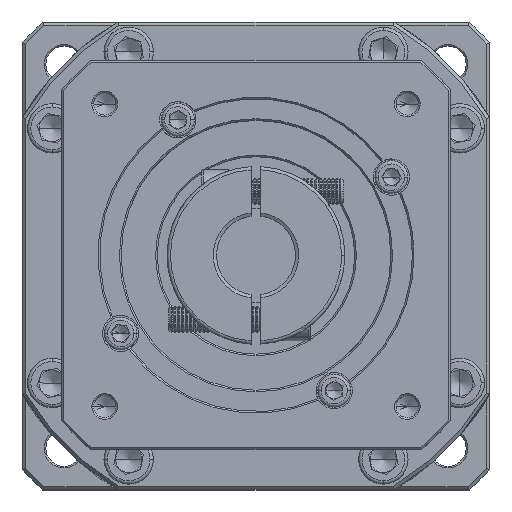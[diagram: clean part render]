
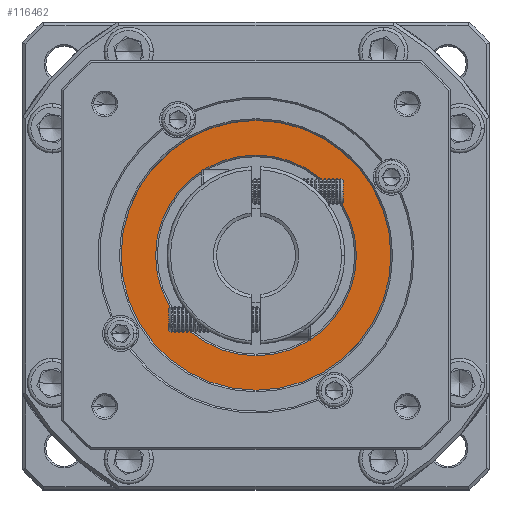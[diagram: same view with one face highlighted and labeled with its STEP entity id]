
A CAD part, top view. The second image highlights one B-rep face of the part: STEP entity #116462.
In plain terms, the highlighted planar face has unit normal (0, 0, 1).
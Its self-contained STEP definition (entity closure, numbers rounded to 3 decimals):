
#4905 = CARTESIAN_POINT ( 'NONE',  ( -115.127, 57.494, -16.365 ) ) ;
#5322 = DIRECTION ( 'NONE',  ( 0., 0., -1. ) ) ;
#5814 = DIRECTION ( 'NONE',  ( 0., 0., -1. ) ) ;
#7078 = VERTEX_POINT ( 'NONE', #36864 ) ;
#11113 = CIRCLE ( 'NONE', #100791, 30.5 ) ;
#11739 = EDGE_CURVE ( 'NONE', #7078, #98294, #11113, .T. ) ;
#12492 = CARTESIAN_POINT ( 'NONE',  ( -115.127, 57.494, -16.365 ) ) ;
#16717 = DIRECTION ( 'NONE',  ( 0., -1., 0. ) ) ;
#17315 = FACE_BOUND ( 'NONE', #86670, .T. ) ;
#19490 = VERTEX_POINT ( 'NONE', #38072 ) ;
#19562 = EDGE_LOOP ( 'NONE', ( #110936, #78933 ) ) ;
#23667 = DIRECTION ( 'NONE',  ( 1., 0., 0. ) ) ;
#27287 = AXIS2_PLACEMENT_3D ( 'NONE', #109663, #90575, #23667 ) ;
#32098 = CARTESIAN_POINT ( 'NONE',  ( -115.127, 57.494, -16.365 ) ) ;
#36864 = CARTESIAN_POINT ( 'NONE',  ( -115.127, 26.994, -16.365 ) ) ;
#37833 = FACE_OUTER_BOUND ( 'NONE', #19562, .T. ) ;
#38072 = CARTESIAN_POINT ( 'NONE',  ( -74.127, 57.494, -16.365 ) ) ;
#38296 = CIRCLE ( 'NONE', #80100, 41. ) ;
#41330 = DIRECTION ( 'NONE',  ( 1., 0., 0. ) ) ;
#44275 = EDGE_CURVE ( 'NONE', #89448, #19490, #47867, .T. ) ;
#47867 = CIRCLE ( 'NONE', #27287, 41. ) ;
#54990 = EDGE_CURVE ( 'NONE', #98294, #7078, #64720, .T. ) ;
#55257 = CARTESIAN_POINT ( 'NONE',  ( -115.127, 87.994, -16.365 ) ) ;
#61520 = DIRECTION ( 'NONE',  ( 0., -1., 0. ) ) ;
#64491 = AXIS2_PLACEMENT_3D ( 'NONE', #118508, #5322, #16717 ) ;
#64720 = CIRCLE ( 'NONE', #64491, 30.5 ) ;
#69078 = PLANE ( 'NONE',  #70283 ) ;
#69679 = DIRECTION ( 'NONE',  ( 0., 0., 1. ) ) ;
#70283 = AXIS2_PLACEMENT_3D ( 'NONE', #12492, #117892, #41330 ) ;
#78777 = DIRECTION ( 'NONE',  ( 1., 0., 0. ) ) ;
#78933 = ORIENTED_EDGE ( 'NONE', *, *, #44275, .T. ) ;
#80100 = AXIS2_PLACEMENT_3D ( 'NONE', #4905, #69679, #78777 ) ;
#85945 = CARTESIAN_POINT ( 'NONE',  ( -156.127, 57.494, -16.365 ) ) ;
#86670 = EDGE_LOOP ( 'NONE', ( #87460, #97190 ) ) ;
#87460 = ORIENTED_EDGE ( 'NONE', *, *, #11739, .T. ) ;
#89448 = VERTEX_POINT ( 'NONE', #85945 ) ;
#90575 = DIRECTION ( 'NONE',  ( 0., 0., 1. ) ) ;
#97190 = ORIENTED_EDGE ( 'NONE', *, *, #54990, .T. ) ;
#98294 = VERTEX_POINT ( 'NONE', #55257 ) ;
#100791 = AXIS2_PLACEMENT_3D ( 'NONE', #32098, #5814, #61520 ) ;
#109663 = CARTESIAN_POINT ( 'NONE',  ( -115.127, 57.494, -16.365 ) ) ;
#110936 = ORIENTED_EDGE ( 'NONE', *, *, #115286, .T. ) ;
#115286 = EDGE_CURVE ( 'NONE', #19490, #89448, #38296, .T. ) ;
#116462 = ADVANCED_FACE ( 'NONE', ( #37833, #17315 ), #69078, .T. ) ;
#117892 = DIRECTION ( 'NONE',  ( 0., 0., 1. ) ) ;
#118508 = CARTESIAN_POINT ( 'NONE',  ( -115.127, 57.494, -16.365 ) ) ;
